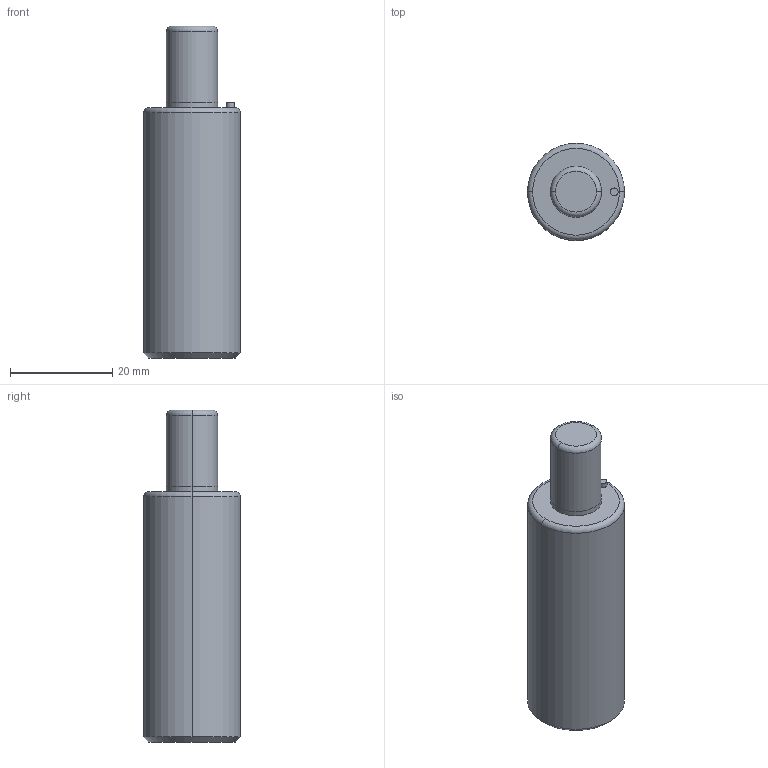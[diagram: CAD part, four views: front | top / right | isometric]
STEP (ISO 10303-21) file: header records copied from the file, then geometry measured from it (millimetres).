
FILE_DESCRIPTION(/* description */ (''),/* implementation_level */ '2;1');
FILE_NAME(/* name */ '3d_mgsc19-15_04566_r00.stp',/* time_stamp */ '2011-01-10T14:13:35+09:00',/* author */ ('MISUMI'),/* organization */ (''),/* preprocessor_version */ 'ST-DEVELOPER v11',/* originating_system */ 'UGS - NX 5.0',/* authorisation */ '');
FILE_SCHEMA (('CONFIG_CONTROL_DESIGN'));
Length unit declared in the file: millimetre
Products named in the file (1): 3d_mgsc19-15_04566_r00
Bounding box: 19 x 19 x 65 mm (x, y, z)
Volume: 14897.8 mm3; surface area: 4083.1 mm2
Topology: 1 solids, 1 shells, 24 faces, 48 edges, 27 vertices
Faces by surface type: cylinder 12, plane 4, torus 4, cone 4
Entity records: 698 total; most frequent: DIRECTION 126, CARTESIAN_POINT 98, ORIENTED_EDGE 92, AXIS2_PLACEMENT_3D 55, EDGE_CURVE 46, CIRCLE 30, EDGE_LOOP 27, VERTEX_POINT 27
